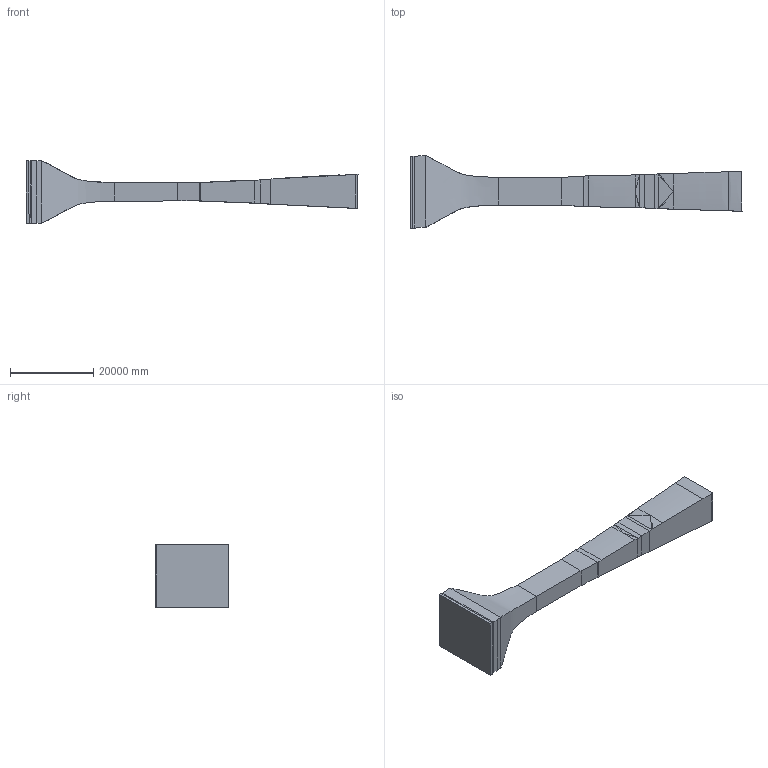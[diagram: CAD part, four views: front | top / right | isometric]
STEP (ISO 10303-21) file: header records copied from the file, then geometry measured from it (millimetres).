
FILE_DESCRIPTION(/* description */ (''),/* implementation_level */ '2;1');
FILE_NAME(/* name */ '14x22_hi-speed_leg_2019_03_20-mm.stp',/* time_stamp */ '2019-03-20T14:44:12-04:00',/* author */ (''),/* organization */ (''),/* preprocessor_version */ 'ST-DEVELOPER v16',/* originating_system */ 'SIEMENS PLM Software NX 10.0',/* authorisation */ '');
FILE_SCHEMA (('AP203_CONFIGURATION_CONTROLLED_3D_DESIGN_OF_MECHANICAL_PARTS_AND_ASSEMBLIES_MIM_LF { 1 0 10303 403 2 1 2}'));
Length unit declared in the file: millimetre
Products named in the file (1): sbry28287781b947
Bounding box: 79862.31 x 17532.34 x 15158.16 mm (x, y, z)
Volume: 5144386592486.3 mm3; surface area: 2827344669.1 mm2
Topology: 1 solids, 1 shells, 62 faces, 150 edges, 86 vertices
Faces by surface type: bspline 58, plane 4
Entity records: 7402 total; most frequent: CARTESIAN_POINT 6323, ORIENTED_EDGE 292, EDGE_CURVE 146, B_SPLINE_CURVE_WITH_KNOTS 121, VERTEX_POINT 86, ADVANCED_FACE 62, FACE_OUTER_BOUND 62, EDGE_LOOP 62
